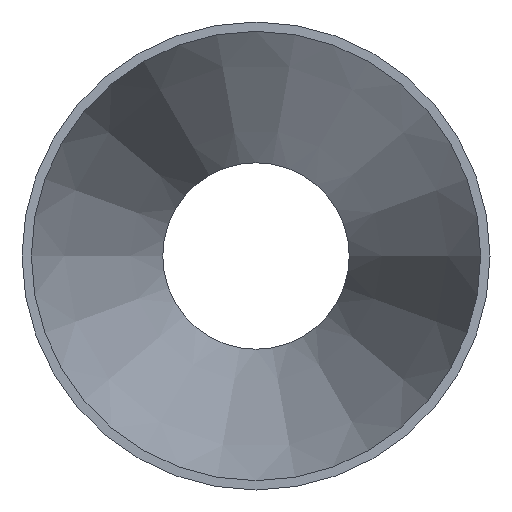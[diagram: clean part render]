
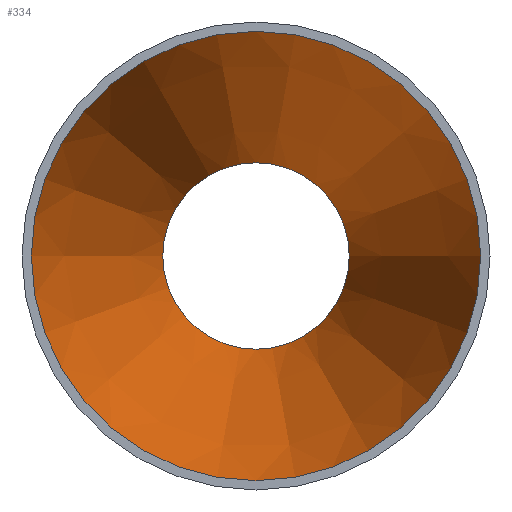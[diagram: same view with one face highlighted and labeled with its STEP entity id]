
A CAD part, left-side view. The second image highlights one B-rep face of the part: STEP entity #334.
In plain terms, the highlighted conical face has half-angle 16.015 degrees and reference radius 57.15 mm.
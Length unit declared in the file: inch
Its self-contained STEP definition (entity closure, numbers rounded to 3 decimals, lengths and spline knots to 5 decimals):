
#66=FACE_OUTER_BOUND('',#82,.T.);
#82=EDGE_LOOP('',(#235,#236,#237,#238,#239,#240));
#104=LINE('',#580,#114);
#114=VECTOR('',#447,2.25);
#127=CIRCLE('',#375,1.32);
#128=CIRCLE('',#376,3.18);
#129=CIRCLE('',#377,3.18);
#130=CIRCLE('',#378,1.32);
#159=VERTEX_POINT('',#576);
#160=VERTEX_POINT('',#577);
#161=VERTEX_POINT('',#579);
#162=VERTEX_POINT('',#581);
#192=EDGE_CURVE('',#159,#160,#127,.T.);
#193=EDGE_CURVE('',#160,#161,#104,.T.);
#194=EDGE_CURVE('',#162,#161,#128,.T.);
#195=EDGE_CURVE('',#161,#162,#129,.T.);
#196=EDGE_CURVE('',#160,#159,#130,.T.);
#235=ORIENTED_EDGE('',*,*,#192,.T.);
#236=ORIENTED_EDGE('',*,*,#193,.T.);
#237=ORIENTED_EDGE('',*,*,#194,.F.);
#238=ORIENTED_EDGE('',*,*,#195,.F.);
#239=ORIENTED_EDGE('',*,*,#193,.F.);
#240=ORIENTED_EDGE('',*,*,#196,.T.);
#314=CONICAL_SURFACE('',#374,2.25,0.28);
#334=ADVANCED_FACE('',(#66),#314,.F.);
#374=AXIS2_PLACEMENT_3D('',#575,#443,#444);
#375=AXIS2_PLACEMENT_3D('',#578,#445,#446);
#376=AXIS2_PLACEMENT_3D('',#582,#448,#449);
#377=AXIS2_PLACEMENT_3D('',#583,#450,#451);
#378=AXIS2_PLACEMENT_3D('',#584,#452,#453);
#443=DIRECTION('center_axis',(-1.,0.,0.));
#444=DIRECTION('ref_axis',(0.,1.,0.));
#445=DIRECTION('center_axis',(1.,0.,0.));
#446=DIRECTION('ref_axis',(0.,1.,0.));
#447=DIRECTION('',(-0.961,-0.276,0.));
#448=DIRECTION('center_axis',(1.,0.,0.));
#449=DIRECTION('ref_axis',(0.,1.,0.));
#450=DIRECTION('center_axis',(1.,0.,0.));
#451=DIRECTION('ref_axis',(0.,1.,0.));
#452=DIRECTION('center_axis',(1.,0.,0.));
#453=DIRECTION('ref_axis',(0.,1.,0.));
#575=CARTESIAN_POINT('Origin',(4.5,0.,0.));
#576=CARTESIAN_POINT('',(7.74,1.32,0.));
#577=CARTESIAN_POINT('',(7.74,-1.32,0.));
#578=CARTESIAN_POINT('Origin',(7.74,0.,0.));
#579=CARTESIAN_POINT('',(1.26,-3.18,0.));
#580=CARTESIAN_POINT('',(4.5,-2.25,0.));
#581=CARTESIAN_POINT('',(1.26,3.18,0.));
#582=CARTESIAN_POINT('Origin',(1.26,0.,0.));
#583=CARTESIAN_POINT('Origin',(1.26,0.,0.));
#584=CARTESIAN_POINT('Origin',(7.74,0.,0.));
